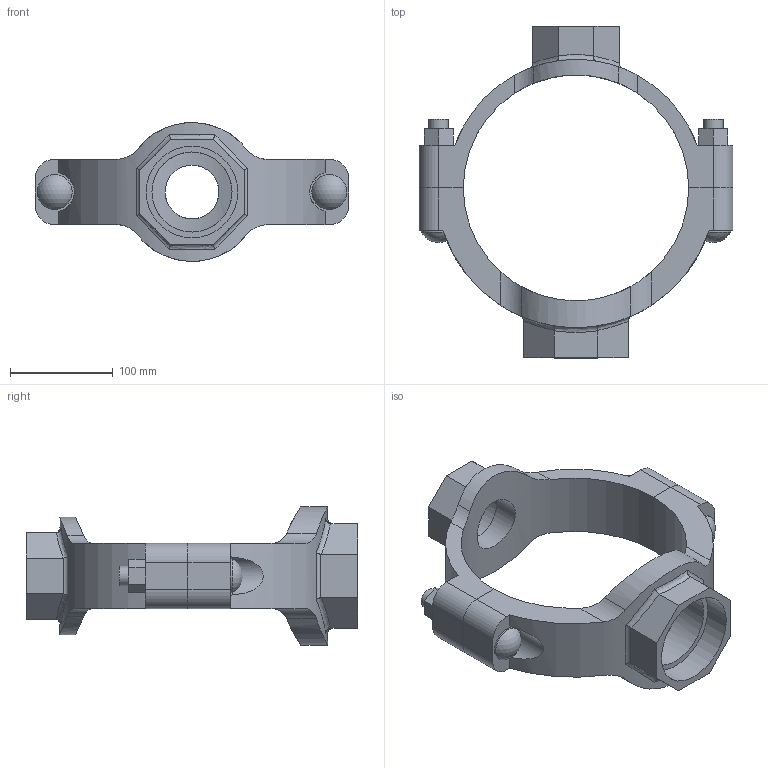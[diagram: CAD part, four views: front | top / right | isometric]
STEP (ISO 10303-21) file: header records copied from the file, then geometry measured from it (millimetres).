
FILE_DESCRIPTION(/* description */ ('VIC MECH-T BRANCH OUTLET CROSS STYLE 920N (THD)','CAx-IF Rec.Pracs.---Representation and Presentation of Product Manufacturing Information (PMI)---4.0---2014-10-13'),/* implementation_level */ '2;1');
FILE_NAME(/* name */ 'C:\Users\Vjadhav\AppData\Roaming\Autodesk\ApplicationPlugins\Back Up\Victaulic_IPS_Mechanical-Cross Outlet_Style 920N (FPT)\Victaulic_IPS_Mechanical-Cross Outlet_08.0x02.0x03.0 (200x50x80).stp',/* time_stamp */ '2020-08-06T19:00:51+06:00',/* author */ ('Vjadhav'),/* organization */ ('Victaulic'),/* preprocessor_version */ 'ST-DEVELOPER v17.2',/* originating_system */ 'Autodesk Inventor 2019',/* authorisation */ '');
FILE_SCHEMA (('AP242_MANAGED_MODEL_BASED_3D_ENGINEERING_MIM_LF { 1 0 10303 442 1 1 4 }'));
Length unit declared in the file: inch
Products named in the file (3): 920NT-08.0x02.0x03.0; 920T-08.0x02.0; 920T-08.0x03.0
Assembly tree (2 placements, depth 2):
  920NT-08.0x02.0x03.0
    920T-08.0x02.0
    920T-08.0x03.0
Bounding box: 304.8 x 322.33 x 134.87 mm (x, y, z)
Volume: 1475561 mm3; surface area: 231824.3 mm2
Topology: 2 solids, 2 shells, 132 faces, 350 edges, 236 vertices
Faces by surface type: plane 68, cylinder 50, bspline 8, torus 4, sphere 2
Full cylindrical faces by diameter (mm): 19.05 x4, 33.843 x2, 52.387 x1, 60.325 x1, 77.787 x1, 88.9 x1
Entity records: 5208 total; most frequent: CARTESIAN_POINT 1695, ORIENTED_EDGE 700, DIRECTION 648, EDGE_CURVE 350, VERTEX_POINT 236, AXIS2_PLACEMENT_3D 231, LINE 186, VECTOR 186
